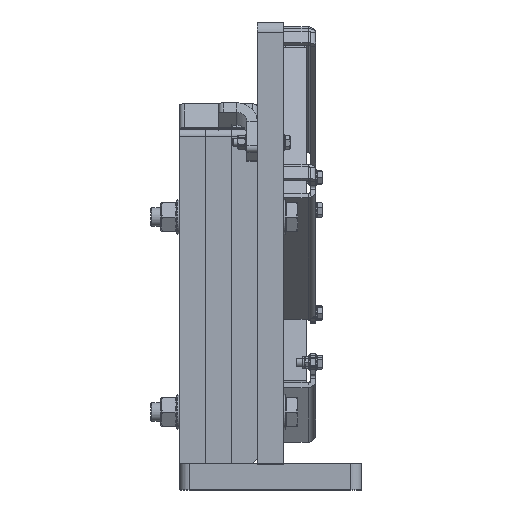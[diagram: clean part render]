
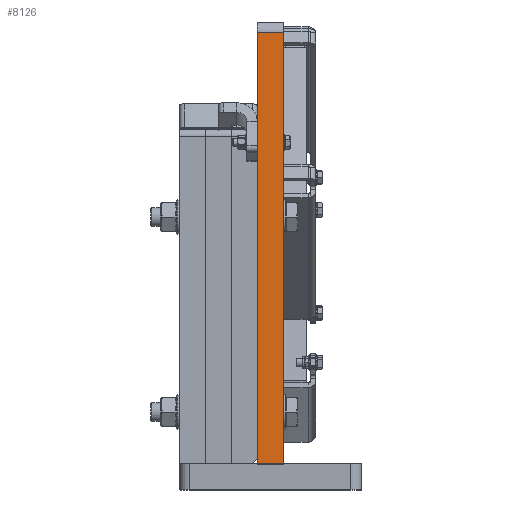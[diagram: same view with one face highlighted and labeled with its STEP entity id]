
A CAD part, left-side view. The second image highlights one B-rep face of the part: STEP entity #8126.
In plain terms, the highlighted planar face has unit normal (-1, 0, 0).
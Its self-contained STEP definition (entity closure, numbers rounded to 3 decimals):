
#1452=FACE_OUTER_BOUND('',#1976,.T.);
#1976=EDGE_LOOP('',(#6197,#6198,#6199,#6200));
#2447=LINE('',#12109,#3091);
#2547=LINE('',#12479,#3191);
#2610=LINE('',#12663,#3254);
#2618=LINE('',#12680,#3262);
#3091=VECTOR('',#9531,830.);
#3191=VECTOR('',#9893,830.);
#3254=VECTOR('',#10100,50.);
#3262=VECTOR('',#10126,50.);
#3735=VERTEX_POINT('',#12106);
#3736=VERTEX_POINT('',#12108);
#3874=VERTEX_POINT('',#12476);
#3875=VERTEX_POINT('',#12478);
#4487=EDGE_CURVE('',#3736,#3735,#2447,.T.);
#4668=EDGE_CURVE('',#3874,#3875,#2547,.T.);
#4760=EDGE_CURVE('',#3735,#3875,#2610,.T.);
#4768=EDGE_CURVE('',#3736,#3874,#2618,.T.);
#6197=ORIENTED_EDGE('',*,*,#4768,.F.);
#6198=ORIENTED_EDGE('',*,*,#4487,.T.);
#6199=ORIENTED_EDGE('',*,*,#4760,.T.);
#6200=ORIENTED_EDGE('',*,*,#4668,.F.);
#7805=PLANE('',#8735);
#8126=ADVANCED_FACE('',(#1452),#7805,.T.);
#8735=AXIS2_PLACEMENT_3D('',#12697,#10153,#10154);
#9531=DIRECTION('',(0.,-1.,0.));
#9893=DIRECTION('',(0.,-1.,0.));
#10100=DIRECTION('',(0.,0.,1.));
#10126=DIRECTION('',(0.,0.,1.));
#10153=DIRECTION('center_axis',(-1.,0.,0.));
#10154=DIRECTION('ref_axis',(0.,-1.,0.));
#12106=CARTESIAN_POINT('',(-2250.,50.,0.));
#12108=CARTESIAN_POINT('',(-2250.,880.,0.));
#12109=CARTESIAN_POINT('',(-2250.,900.,0.));
#12476=CARTESIAN_POINT('',(-2250.,880.,50.));
#12478=CARTESIAN_POINT('',(-2250.,50.,50.));
#12479=CARTESIAN_POINT('',(-2250.,900.,50.));
#12663=CARTESIAN_POINT('',(-2250.,50.,0.));
#12680=CARTESIAN_POINT('',(-2250.,880.,0.));
#12697=CARTESIAN_POINT('Origin',(-2250.,900.,0.));
